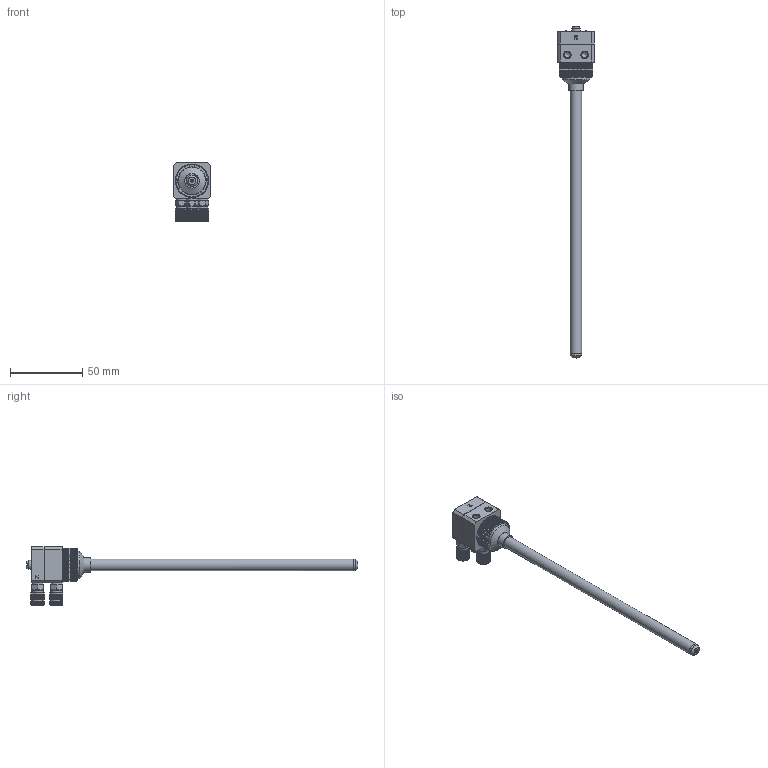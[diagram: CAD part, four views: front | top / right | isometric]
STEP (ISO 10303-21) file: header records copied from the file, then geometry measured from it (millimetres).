
FILE_DESCRIPTION (( 'STEP AP214' ), '1' );
FILE_NAME ('DAS-30-200F-8-HP.STEP', '2024-10-11T10:00:01', ( '' ), ( '' ), 'SwSTEP 2.0', 'SolidWorks 2024', '' );
FILE_SCHEMA (( 'AUTOMOTIVE_DESIGN' ));
Length unit declared in the file: millimetre
Products named in the file (1): DAS-30-200F-8-HP
Bounding box: 25 x 230 x 40.5 mm (x, y, z)
Volume: 29136 mm3; surface area: 16123.9 mm2
Topology: 2 solids, 9 shells, 1643 faces, 4337 edges, 2773 vertices
Faces by surface type: plane 995, cylinder 416, cone 227, bspline 5
Full cylindrical faces by diameter (mm): 0.5 x1, 0.8 x3, 1.5 x4, 1.6 x1, 2.5 x1, 3 x6, 3.2 x3, 4 x3, 4.198 x2, 4.2 x2, 4.5 x3, 5 x3, 5.1 x3, 5.2 x1, 5.4 x3, 5.5 x3, 5.7 x3, 6 x1, 6.2 x3, 7.498 x3, 7.5 x3, 7.998 x1, 8 x7, 8.2 x1, 8.7 x3, 10 x2, 14 x1, 19 x1, 19.2 x1, 19.9 x1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
Entity records: 51539 total; most frequent: CARTESIAN_POINT 12855, ORIENTED_EDGE 8252, DIRECTION 7494, EDGE_CURVE 4126, VERTEX_POINT 2704, AXIS2_PLACEMENT_3D 2561, VECTOR 2372, LINE 2372
